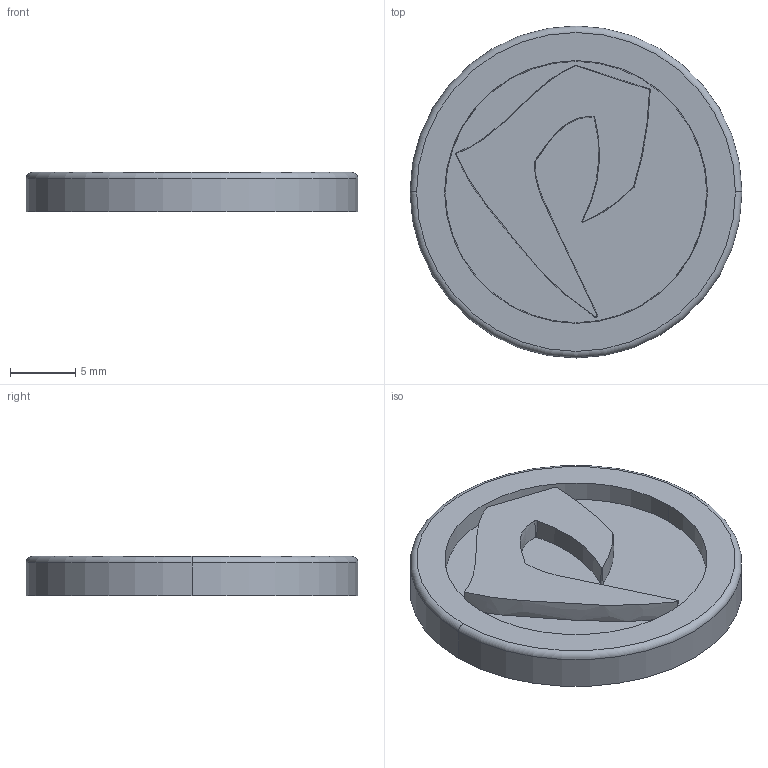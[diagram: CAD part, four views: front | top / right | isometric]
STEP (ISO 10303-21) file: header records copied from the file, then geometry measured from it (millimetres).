
FILE_DESCRIPTION((''),'2;1');
FILE_NAME('BRANCH_MARINE','2015-05-15T',('Daniel'),(''),'PRO/ENGINEER BY PARAMETRIC TECHNOLOGY CORPORATION, 2014000','PRO/ENGINEER BY PARAMETRIC TECHNOLOGY CORPORATION, 2014000','');
FILE_SCHEMA(('CONFIG_CONTROL_DESIGN'));
Length unit declared in the file: millimetre
Products named in the file (1): BRANCH_MARINE
Bounding box: 25.4 x 25.4 x 3 mm (x, y, z)
Volume: 1209.3 mm3; surface area: 1433.5 mm2
Topology: 1 solids, 1 shells, 27 faces, 67 edges, 44 vertices
Faces by surface type: cone 14, plane 6, bspline 3, torus 2, cylinder 2
Entity records: 1028 total; most frequent: CARTESIAN_POINT 328, DIRECTION 145, ORIENTED_EDGE 134, EDGE_CURVE 67, AXIS2_PLACEMENT_3D 60, VERTEX_POINT 44, CIRCLE 36, EDGE_LOOP 29
